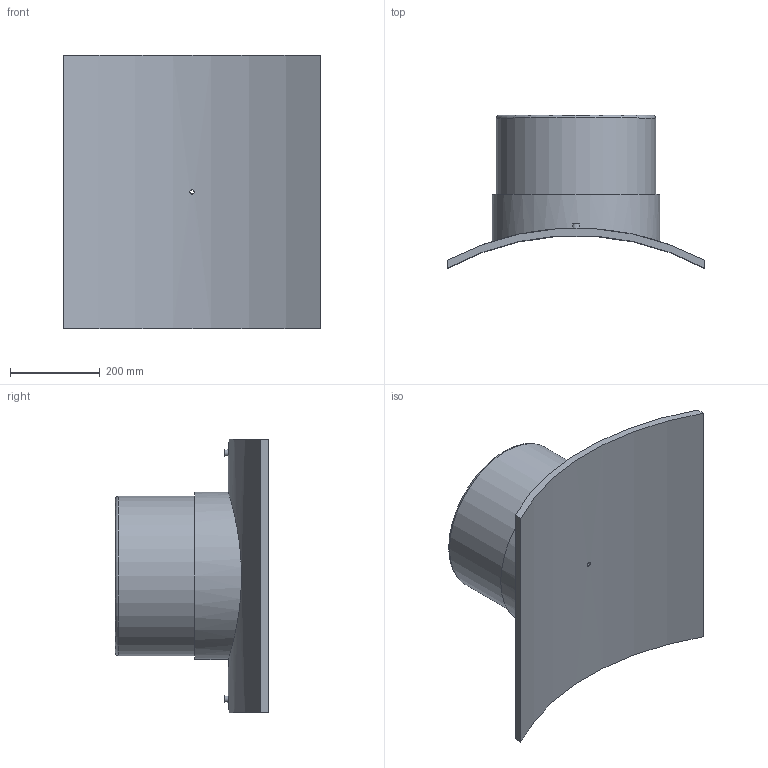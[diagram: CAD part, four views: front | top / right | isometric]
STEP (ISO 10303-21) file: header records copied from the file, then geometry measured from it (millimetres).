
FILE_DESCRIPTION(/* description */ ('PLASSON BRANCH SADDLE 1200x355'),/* implementation_level */ '2;1');
FILE_NAME(/* name */ 'C:\Dropbox\99-16-3568-Processing\ElectroFusion Fittings\495803\4958031200355T.ipt.stp',/* time_stamp */ '2021-02-25T09:43:46+02:00',/* author */ ('KIM'),/* organization */ (''),/* preprocessor_version */ 'ST-DEVELOPER v17.2',/* originating_system */ 'Autodesk Inventor 2019',/* authorisation */ '');
FILE_SCHEMA (('AUTOMOTIVE_DESIGN { 1 0 10303 214 3 1 1 }'));
Length unit declared in the file: millimetre
Products named in the file (1): 4958031200355T
Bounding box: 575 x 341.37 x 610 mm (x, y, z)
Volume: 16110239.1 mm3; surface area: 1312724.3 mm2
Topology: 1 solids, 1 shells, 29 faces, 60 edges, 43 vertices
Faces by surface type: plane 13, cylinder 12, torus 2, cone 2
Full cylindrical faces by diameter (mm): 4 x2, 9.6 x1, 10 x2, 16 x1, 284 x1, 355 x1, 372.75 x1
Entity records: 1086 total; most frequent: CARTESIAN_POINT 400, DIRECTION 139, ORIENTED_EDGE 120, EDGE_CURVE 60, AXIS2_PLACEMENT_3D 60, VERTEX_POINT 43, EDGE_LOOP 41, CIRCLE 30
